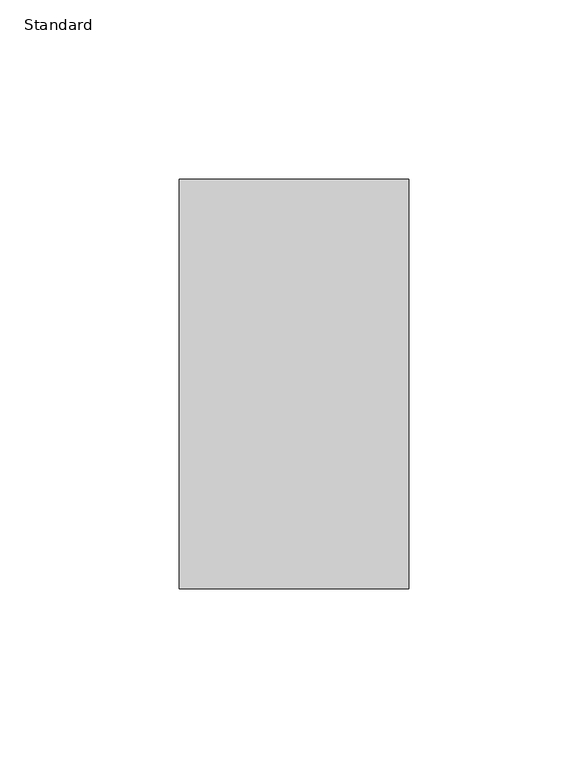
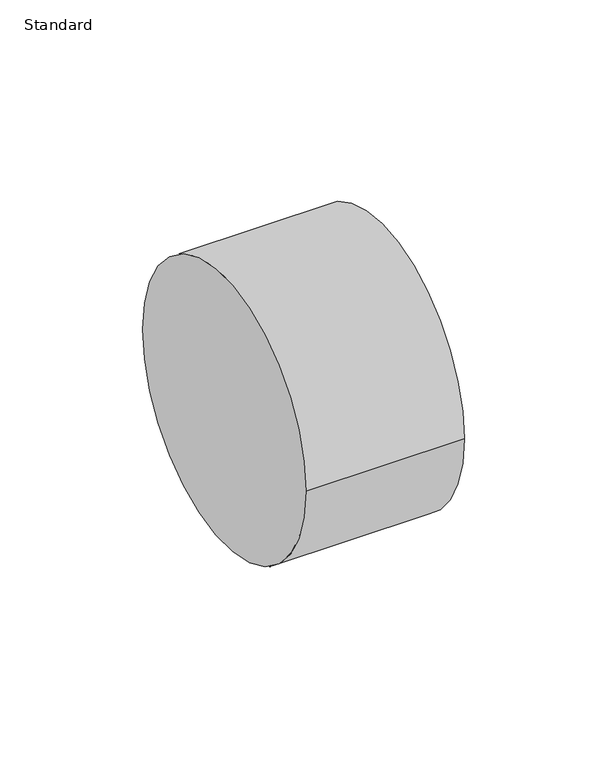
"""IFC4 building model written with IfcOpenShell, lengths in millimetres: pipe fitting geometry, Chapeau - Générique : Standard."""

from ifc_helpers import new_model, si_unit, point, frame, origin, origin_2d, place, context, project, spatial, circle_curve, trimmed, segment, composite_curve, outline, extrude, source, transform, mapped, element, save


def standard_92f9c62b(model_context):
    return source(origin(), model_context, "Body", "SweptSolid", [
        extrude(outline(composite_curve([segment(trimmed(circle_curve(origin_2d(), 57.15), [point((-57.15, 0.0))], [point((57.15, 0.0))], False, "CARTESIAN"), True, "CONTINUOUS"), segment(trimmed(circle_curve(origin_2d(), 57.15), [point((57.15, 0.0))], [point((-57.15, 0.0))], False, "CARTESIAN"), True, "CONTINUOUS")], self_intersect=False)), frame((0.0, 0.0, 0.0), z_axis=(1.0, 0.0, 0.0), x_axis=(0.0, 1.0, 0.0)), (0.0, 0.0, 1.0), 64.0),
    ])


if __name__ == "__main__":
    model = new_model("IFC4")
    model_context = context("Model", 3, world=origin())
    ifc_project = project(units=[si_unit("LENGTHUNIT", "METRE", prefix="MILLI")], contexts=[model_context])
    site = spatial("IfcSite", under=ifc_project)
    building = spatial("IfcBuilding", under=site)
    placement = place(None, origin())
    standard_shape = standard_92f9c62b(model_context)
    element("IfcPipeFitting", 1, ObjectType="Chapeau - Générique : Standard", at=placement, inside=building, context=model_context, shape_type="MappedRepresentation", body=[
        mapped(standard_shape, transform((0.0, 0.0, 0.0), x_axis=(1.0, 0.0, 0.0), y_axis=(0.0, 1.0, 0.0), z_axis=(0.0, 0.0, 1.0))),
    ])
    save(model, "model.ifc")
